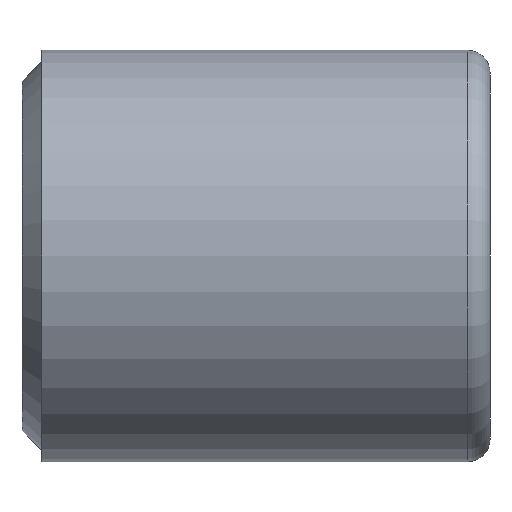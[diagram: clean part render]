
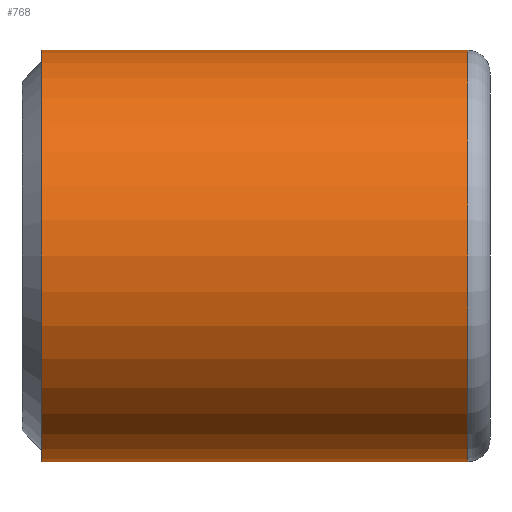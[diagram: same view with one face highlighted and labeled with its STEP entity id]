
A CAD part, front view. The second image highlights one B-rep face of the part: STEP entity #768.
In plain terms, the highlighted cylindrical face has radius 17.602 mm (diameter 35.204 mm), a partial arc.
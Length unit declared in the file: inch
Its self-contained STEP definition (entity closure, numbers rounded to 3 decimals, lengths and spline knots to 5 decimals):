
#17 = LINE ( 'NONE', #170, #184 ) ;
#27 = VERTEX_POINT ( 'NONE', #150 ) ;
#64 = EDGE_CURVE ( 'NONE', #27, #589, #932, .T. ) ;
#133 = AXIS2_PLACEMENT_3D ( 'NONE', #135, #216, #142 ) ;
#135 = CARTESIAN_POINT ( 'NONE',  ( 0., 0., 0. ) ) ;
#142 = DIRECTION ( 'NONE',  ( 0., 0., 1. ) ) ;
#145 = ORIENTED_EDGE ( 'NONE', *, *, #64, .F. ) ;
#150 = CARTESIAN_POINT ( 'NONE',  ( 0.06674, 0., -0.693 ) ) ;
#158 = EDGE_CURVE ( 'NONE', #299, #27, #17, .T. ) ;
#160 = CARTESIAN_POINT ( 'NONE',  ( 0.06674, 0., 0.693 ) ) ;
#170 = CARTESIAN_POINT ( 'NONE',  ( 0., 0., -0.693 ) ) ;
#184 = VECTOR ( 'NONE', #526, 39.37008 ) ;
#216 = DIRECTION ( 'NONE',  ( -1., 0., 0. ) ) ;
#272 = CARTESIAN_POINT ( 'NONE',  ( 0.06674, 0., 0. ) ) ;
#293 = ORIENTED_EDGE ( 'NONE', *, *, #944, .T. ) ;
#299 = VERTEX_POINT ( 'NONE', #390 ) ;
#340 = CIRCLE ( 'NONE', #548, 0.693 ) ;
#344 = DIRECTION ( 'NONE',  ( 0., 0., 1. ) ) ;
#385 = FACE_OUTER_BOUND ( 'NONE', #521, .T. ) ;
#386 = DIRECTION ( 'NONE',  ( -1., 0., 0. ) ) ;
#390 = CARTESIAN_POINT ( 'NONE',  ( 1.50174, 0., -0.693 ) ) ;
#419 = DIRECTION ( 'NONE',  ( 0., 0., 1. ) ) ;
#476 = CARTESIAN_POINT ( 'NONE',  ( 1.50174, 0., 0. ) ) ;
#521 = EDGE_LOOP ( 'NONE', ( #729, #293, #696, #145 ) ) ;
#526 = DIRECTION ( 'NONE',  ( -1., 0., 0. ) ) ;
#548 = AXIS2_PLACEMENT_3D ( 'NONE', #476, #767, #419 ) ;
#589 = VERTEX_POINT ( 'NONE', #160 ) ;
#590 = LINE ( 'NONE', #733, #872 ) ;
#608 = EDGE_CURVE ( 'NONE', #866, #589, #590, .T. ) ;
#696 = ORIENTED_EDGE ( 'NONE', *, *, #608, .T. ) ;
#705 = CYLINDRICAL_SURFACE ( 'NONE', #133, 0.693 ) ;
#718 = CARTESIAN_POINT ( 'NONE',  ( 1.50174, 0., 0.693 ) ) ;
#729 = ORIENTED_EDGE ( 'NONE', *, *, #158, .F. ) ;
#733 = CARTESIAN_POINT ( 'NONE',  ( 0., 0., 0.693 ) ) ;
#748 = AXIS2_PLACEMENT_3D ( 'NONE', #272, #911, #344 ) ;
#767 = DIRECTION ( 'NONE',  ( -1., 0., 0. ) ) ;
#768 = ADVANCED_FACE ( 'NONE', ( #385 ), #705, .T. ) ;
#866 = VERTEX_POINT ( 'NONE', #718 ) ;
#872 = VECTOR ( 'NONE', #386, 39.37008 ) ;
#911 = DIRECTION ( 'NONE',  ( -1., 0., 0. ) ) ;
#932 = CIRCLE ( 'NONE', #748, 0.693 ) ;
#944 = EDGE_CURVE ( 'NONE', #299, #866, #340, .T. ) ;
